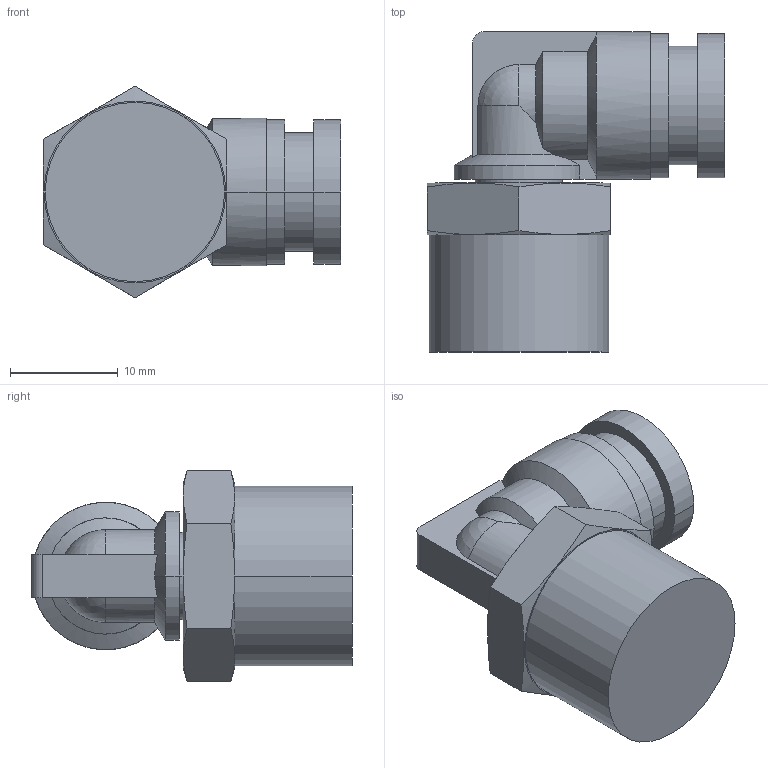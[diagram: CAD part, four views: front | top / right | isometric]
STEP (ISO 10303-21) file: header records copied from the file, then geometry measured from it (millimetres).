
FILE_DESCRIPTION( ( '' ), '1' );
FILE_NAME( 'G:/SMC狟婥/KQ2L08-03AS.stp', '2023-03-07T03:04:16', ( '' ), ( '' ), ' ', ' ', ' ' );
FILE_SCHEMA( ( 'CONFIG_CONTROL_DESIGN' ) );
Length unit declared in the file: millimetre
Products named in the file (1): 1
Bounding box: 27.6 x 29.75 x 19.63 mm (x, y, z)
Volume: 5563.3 mm3; surface area: 3038.2 mm2
Topology: 1 solids, 1 shells, 60 faces, 146 edges, 93 vertices
Faces by surface type: plane 25, cylinder 23, cone 10, sphere 2
Entity records: 1800 total; most frequent: CARTESIAN_POINT 396, DIRECTION 290, ORIENTED_EDGE 288, EDGE_CURVE 144, AXIS2_PLACEMENT_3D 119, VERTEX_POINT 93, EDGE_LOOP 67, ADVANCED_FACE 60
